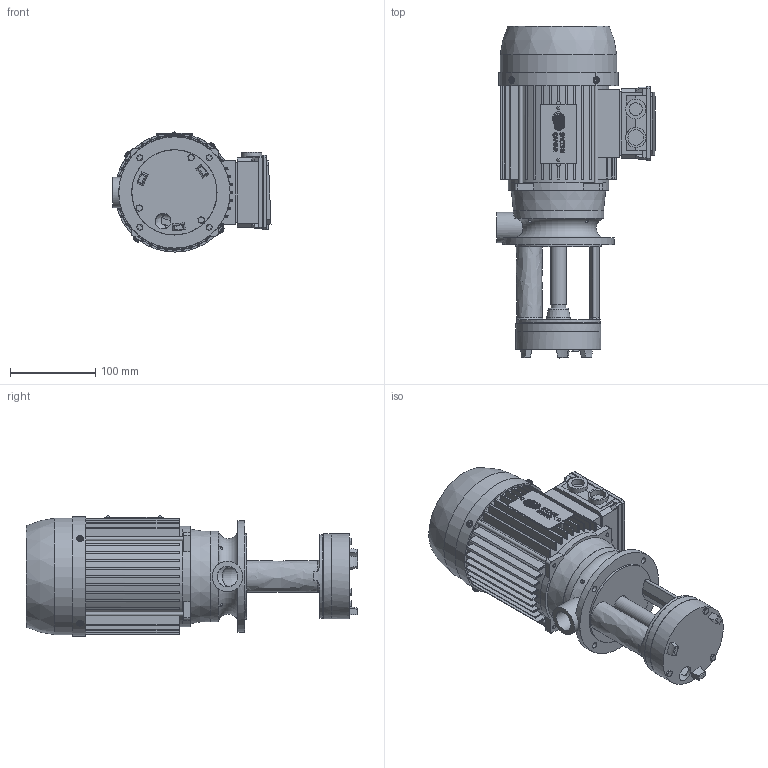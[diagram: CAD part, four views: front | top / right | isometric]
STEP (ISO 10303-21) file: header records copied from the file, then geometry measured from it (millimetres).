
FILE_DESCRIPTION(/* description */ (''),/* implementation_level */ '2;1');
FILE_NAME(/* name */ 'T:\STEP\EPC 71 B\YT71EPB++130.stp',/* time_stamp */ '2019-05-23T08:44:54+02:00',/* author */ ('cboccato'),/* organization */ (''),/* preprocessor_version */ 'ST-DEVELOPER v17.2',/* originating_system */ 'Autodesk Inventor 2019',/* authorisation */ '');
FILE_SCHEMA (('CONFIG_CONTROL_DESIGN'));
Products named in the file (1): YT71EPB++130_iLogic_Shrinkwrap
Bounding box: 185.5 x 389.6 x 141.09 mm (x, y, z)
Volume: 1264988.9 mm3; surface area: 589818.6 mm2
Topology: 14 solids, 31 shells, 2763 faces, 7828 edges, 5173 vertices
Faces by surface type: plane 1611, cylinder 716, cone 225, bspline 108, torus 92, sphere 11
Full cylindrical faces by diameter (mm): 2 x2, 2.53 x2, 3 x9, 3.5 x4, 3.621 x4, 3.9 x4, 4 x3, 4.134 x4, 4.3 x4, 4.33 x8, 4.5 x4, 4.6 x4, 5 x4, 5.5 x4, 6 x4, 6.03 x3, 7 x4, 7.2 x4, 7.75 x1, 9.6 x4, 12 x1, 15 x1, 16.6 x1, 16.8 x1, 16.99 x1, 17 x2, 17.4 x1, 17.5 x1, 18 x2, 18.5 x2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
Entity records: 102728 total; most frequent: CARTESIAN_POINT 28112, ORIENTED_EDGE 15690, DIRECTION 14223, EDGE_CURVE 7845, VERTEX_POINT 5197, AXIS2_PLACEMENT_3D 4947, LINE 4329, VECTOR 4329
